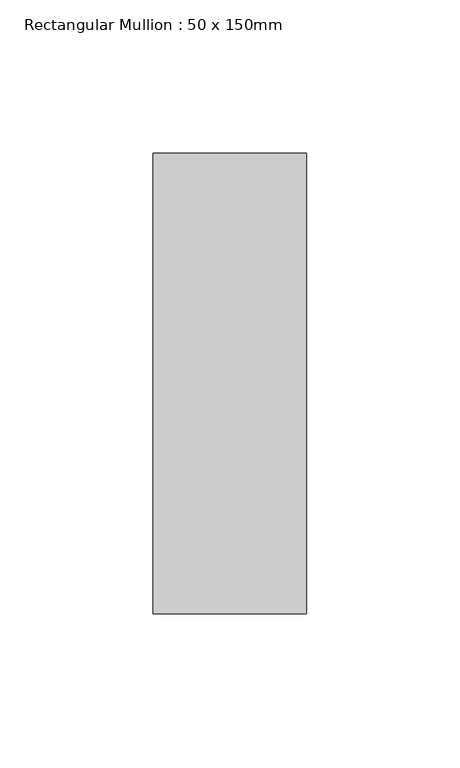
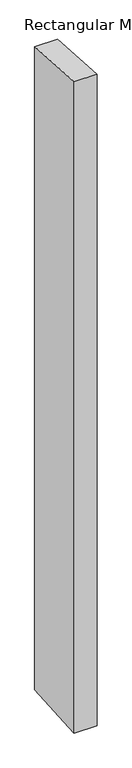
"""IFC4 building model written with IfcOpenShell, lengths in millimetres: member geometry, Rectangular Mullion : 50 x 150mm."""

from ifc_helpers import new_model, si_unit, frame, origin, place, context, project, spatial, polyline, outline, extrude, source, transform, mapped, element, save


def rectangular_mullion_50_x_150mm_7f1d5474(model_context):
    return source(origin(), model_context, "Body", "SweptSolid", [
        extrude(outline(polyline([(-75.0, 4.7474937), (75.0, -4.7474937), (75.0, -1495.2525063), (-75.0, -1504.7474937), (-75.0, 4.7474937)])), frame((-25.0, 0.0, 0.0), z_axis=(1.0, 0.0, 0.0), x_axis=(0.0, 1.0, 0.0)), (0.0, 0.0, 1.0), 50.0),
    ])


if __name__ == "__main__":
    model = new_model("IFC4")
    model_context = context("Model", 3, world=origin())
    ifc_project = project(units=[si_unit("LENGTHUNIT", "METRE", prefix="MILLI")], contexts=[model_context])
    site = spatial("IfcSite", under=ifc_project)
    building = spatial("IfcBuilding", under=site)
    placement = place(None, origin())
    rectangular_mullion_50_x_150mm_shape = rectangular_mullion_50_x_150mm_7f1d5474(model_context)
    element("IfcMember", 1, ObjectType="Rectangular Mullion : 50 x 150mm", at=placement, inside=building, context=model_context, shape_type="MappedRepresentation", body=[
        mapped(rectangular_mullion_50_x_150mm_shape, transform((0.0, 0.0, 0.0), x_axis=(1.0, 0.0, 0.0), y_axis=(0.0, 1.0, 0.0), z_axis=(0.0, 0.0, 1.0))),
    ])
    save(model, "model.ifc")
